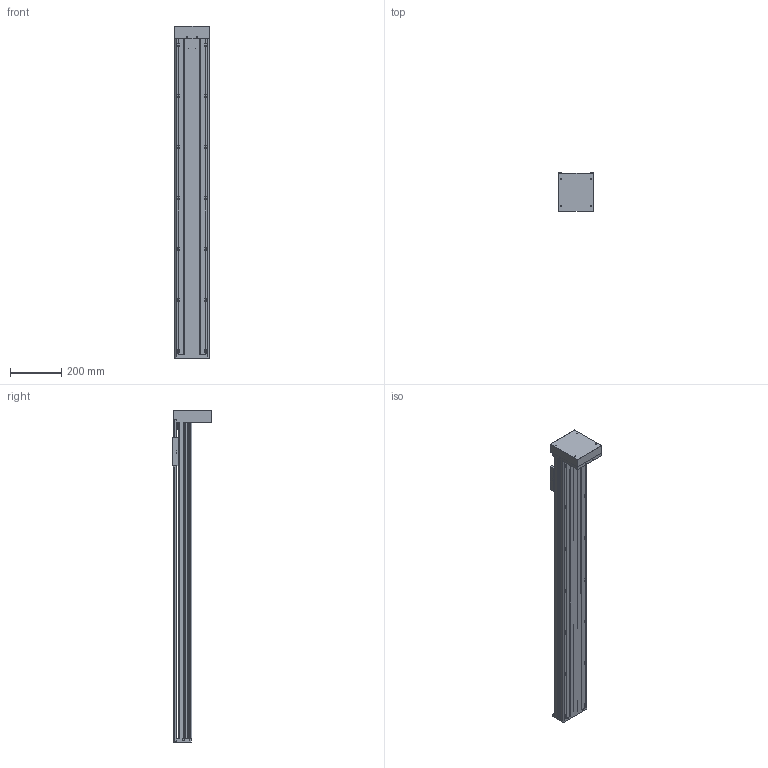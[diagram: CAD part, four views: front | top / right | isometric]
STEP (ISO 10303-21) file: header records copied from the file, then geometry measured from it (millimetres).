
FILE_DESCRIPTION(/* description */ (''),/* implementation_level */ '2;1');
FILE_NAME(/* name */ 'TKA136-FD-1050_asm1.stp',/* time_stamp */ '2016-08-25T16:05:13+08:00',/* author */ (''),/* organization */ (''),/* preprocessor_version */ 'ST-DEVELOPER v15',/* originating_system */ 'SIEMENS PLM Software NX 8.5',/* authorisation */ '');
FILE_SCHEMA (('AUTOMOTIVE_DESIGN { 1 0 10303 214 3 1 1 1 }'));
Length unit declared in the file: millimetre
Products named in the file (3): 100-02; 100-01; TKA136-FD-1050_asm1
Assembly tree (2 placements, depth 2):
  TKA136-FD-1050_asm1
    100-01
    100-02
Bounding box: 136 x 152 x 1300 mm (x, y, z)
Volume: 3981431.8 mm3; surface area: 1546663.7 mm2
Topology: 2 solids, 13 shells, 960 faces, 2725 edges, 1757 vertices
Faces by surface type: cylinder 469, plane 426, cone 65
Full cylindrical faces by diameter (mm): 3 x2, 3.3 x13, 4 x4, 4.2 x8, 4.5 x14, 5 x14, 5.5 x26, 6.6 x18, 8 x12, 10 x9, 10.5 x14, 11 x4, 11.6 x1, 12 x9, 15 x3, 16 x5, 17 x1, 24 x5, 26 x1, 28 x1, 46 x1, 50 x2
Entity records: 32716 total; most frequent: CARTESIAN_POINT 8664, DIRECTION 5020, ORIENTED_EDGE 4774, EDGE_CURVE 2387, AXIS2_PLACEMENT_3D 1903, VERTEX_POINT 1656, EDGE_LOOP 1360, LINE 1214
